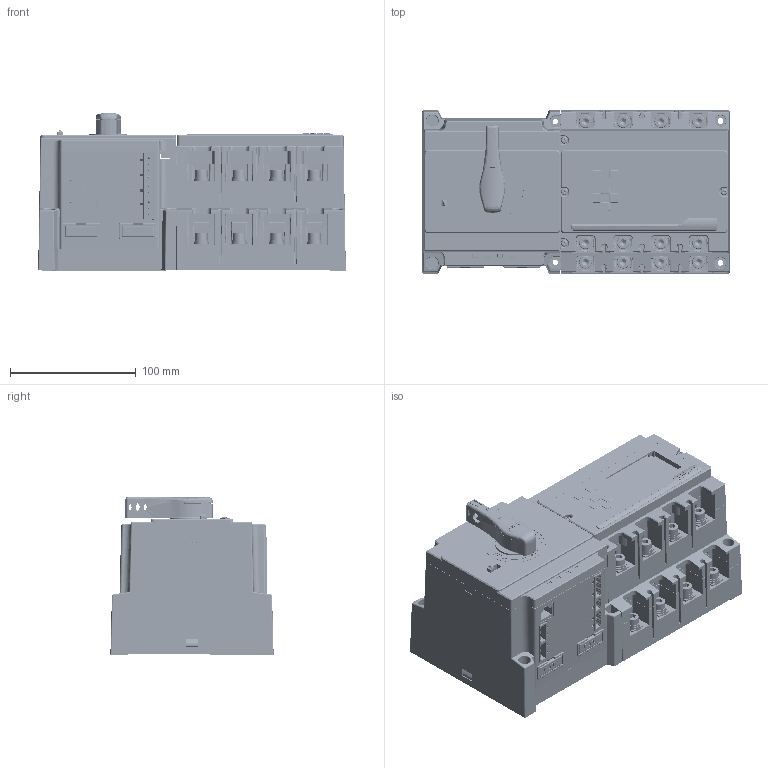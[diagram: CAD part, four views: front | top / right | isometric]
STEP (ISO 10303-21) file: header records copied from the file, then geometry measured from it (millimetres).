
FILE_DESCRIPTION((''),'2;1');
FILE_NAME('NXZ-125_ASM','2018-11-13T',('hongsc'),(''),'CREO PARAMETRIC BY PTC INC, 2015480','CREO PARAMETRIC BY PTC INC, 2015480','');
FILE_SCHEMA(('CONFIG_CONTROL_DESIGN'));
Products named in the file (242): 8ZTD_557_771_1; JI_ZUO_1_1; JI_ZUO_2_1; JI_ZUO_ASM_1_ASM; LUO_MU_M3X6_GB_809__ASM_1_ASM; 5ZTD_024_792_ASM_1_ASM; 8ZTD_557_770_1; LUO_MU_M3_GB_809__ASM_1_ASM; 8ZTD_315_XXX_1; 5ZTD_315_474_MODEL_ASM_1_ASM; 5ZTD_557_284_ASM_1; 5ZTD_140_023_ASM_1_ASM; 5ZTD_140_024_ASM_1_ASM; 5ZTD_234_116_ASM_1_ASM; LUO_DING_M3X6_GB_823__ASM_1_ASM; LUO_DING_ZU_HE_JIAN_M3X6_GB_907_ASM; LUO_DING_ZU_HE_JIAN_M4X28_GB_90_ASM; LUO_MU_M4_GB_6170_PRT_ASM_1_ASM; LUO_DING_M2_5X10_GB_819__ASM_1_ASM; 5ZTD_558_849_MODEL_ASM_1_ASM; 5ZTD_140_021_ASM_1_ASM; M3X4_GB_823_ASM_1_ASM; 5ZTD_140_022_ASM_1_ASM; 8ZTD_315_1311_1; 8ZTD_557_772_1; LUO_MU_M4X8_GB_809__ASM_1_ASM; 8ZTD_024_907_1_1; 8ZTD_024_907_2_1; 8ZTD_024_907_3_1; 8ZTD_024_907_4_1; 8ZTD_024_907_5_1; 8ZTD_024_907_ASM_1_ASM; 5ZTD_024_793_ASM_1_ASM; 5ZTD_234_117_ASM_1_ASM; LUO_DING_M4X32_GB_823__MODEL_AS_ASM; LUO_DING_ZU_HE_JIAN_M4X32_GB_90_ASM; 5ZTD_558_850_MODEL_1_1; 5ZTD_558_850_MODEL_2_1; 5ZTD_558_850_MODEL_ASM_1_ASM; 5ZTD_599_911_ASM_1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
Assembly tree (367 placements, depth 7):
  NXZ-125_ASM
    2ZTD_644_132_NXZ-125_4A__ASM_1_ASM
      2ZTD_644_132_NXZ-125_4A__1_ASM__ASM
        5ZTD_558_849_MODEL_ASM_1_ASM
          8ZTD_557_771_1  x4
          5ZTD_024_792_ASM_1_ASM
            JI_ZUO_ASM_1_ASM
              JI_ZUO_1_1
              JI_ZUO_2_1
            LUO_MU_M3X6_GB_809__ASM_1_ASM  x4
          8ZTD_557_770_1  x4
          5ZTD_315_474_MODEL_ASM_1_ASM
            LUO_MU_M3_GB_809__ASM_1_ASM  x4
            8ZTD_315_XXX_1
          5ZTD_557_284_ASM_1  x4
          5ZTD_140_024_ASM_1_ASM
            5ZTD_140_023_ASM_1_ASM
          5ZTD_234_116_ASM_1_ASM
          LUO_DING_ZU_HE_JIAN_M3X6_GB_907_ASM  x4
            LUO_DING_M3X6_GB_823__ASM_1_ASM
          LUO_DING_ZU_HE_JIAN_M4X28_GB_90_ASM  x4
          LUO_MU_M4_GB_6170_PRT_ASM_1_ASM  x8
          LUO_DING_M2_5X10_GB_819__ASM_1_ASM  x8
        5ZTD_558_850_MODEL_ASM_1_ASM
          5ZTD_140_022_ASM_1_ASM
            5ZTD_140_021_ASM_1_ASM
            M3X4_GB_823_ASM_1_ASM  x2
          5ZTD_557_284_ASM_1  x4
          8ZTD_315_1311_1
          8ZTD_557_772_1  x4
          5ZTD_024_793_ASM_1_ASM
            8ZTD_024_907_ASM_1_ASM
              LUO_MU_M3X6_GB_809__ASM_1_ASM  x9
              LUO_MU_M4X8_GB_809__ASM_1_ASM  x2
              8ZTD_024_907_1_1
              8ZTD_024_907_2_1
              8ZTD_024_907_3_1
              8ZTD_024_907_4_1
              8ZTD_024_907_5_1
          5ZTD_234_117_ASM_1_ASM
          LUO_DING_ZU_HE_JIAN_M3X6_GB_907_ASM  x4
            LUO_DING_M3X6_GB_823__ASM_1_ASM
          LUO_DING_ZU_HE_JIAN_M4X32_GB_90_ASM  x4
            LUO_DING_M4X32_GB_823__MODEL_AS_ASM
          LUO_MU_M4_GB_6170_PRT_ASM_1_ASM  x4
          5ZTD_558_850_MODEL_1_1
          5ZTD_558_850_MODEL_2_1
        5ZTD_599_911_ASM_1
        5ZTD_123_047_ASM_1_ASM
          5ZTD_123_043_ASM_1_ASM
            8ZTD_206_1525_1
          M5X6_GB9074_7_ASM_1  x3
          M2_5X10_GB_823_ASM_1  x2
        8ZTD_510_388_1  x4
        5ZTD_300_174_MODEL_ASM_1_ASM
          BALL_1  x2
          8ZTD_282_1091_1
          8ZTD_235_434_1
          5ZTD_300_177_MODEL_ASM_1_ASM
            ZHAO_KE_MODEL_ASM_1_ASM
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Bounding box: 245.02 x 130.05 x 126.5 mm (x, y, z)
Volume: 1420209.5 mm3; surface area: 738694.4 mm2
Topology: 213 solids, 248 shells, 13843 faces, 40131 edges, 27226 vertices
Faces by surface type: plane 8003, cylinder 3543, cone 788, extrusion 588, torus 459, bspline 328, sphere 134
Entity records: 551860 total; most frequent: CARTESIAN_POINT 207494, ORIENTED_EDGE 75840, DIRECTION 62980, EDGE_CURVE 37946, VERTEX_POINT 25996, VECTOR 25192, LINE 24604, AXIS2_PLACEMENT_3D 18894
